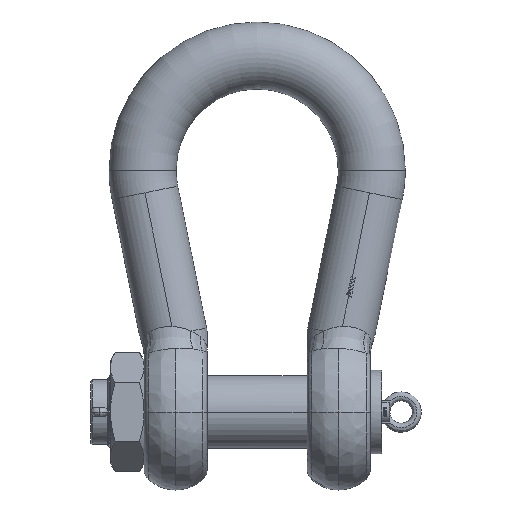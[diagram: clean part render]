
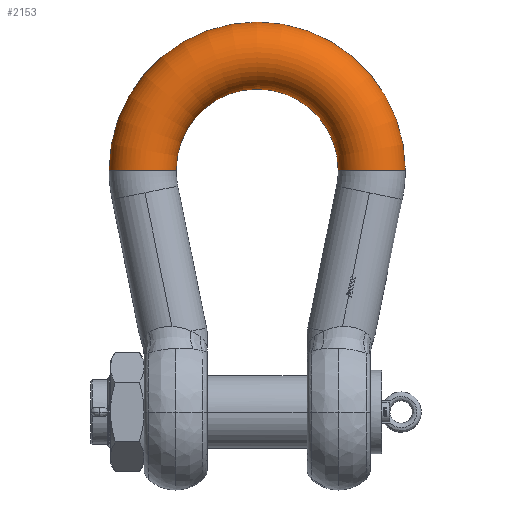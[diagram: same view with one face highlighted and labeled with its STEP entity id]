
A CAD part, front view. The second image highlights one B-rep face of the part: STEP entity #2153.
In plain terms, the highlighted toroidal (fillet/blend) face has major radius 205 mm and minor radius 59.995 mm.
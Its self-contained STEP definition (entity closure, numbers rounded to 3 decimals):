
#2153=ADVANCED_FACE('',(#5113),#5114,.T.);
#5113=FACE_OUTER_BOUND('',#11137,.T.);
#5114=TOROIDAL_SURFACE('',#11138,205.0,59.995);
#11137=EDGE_LOOP('',(#34463,#34464,#34465,#34466));
#11138=AXIS2_PLACEMENT_3D('',#34467,#34468,#34469);
#34463=ORIENTED_EDGE('',*,*,#45775,.T.);
#34464=ORIENTED_EDGE('',*,*,#45776,.F.);
#34465=ORIENTED_EDGE('',*,*,#45777,.T.);
#34466=ORIENTED_EDGE('',*,*,#45612,.F.);
#34467=CARTESIAN_POINT('',(0.0,0.0,433.0));
#34468=DIRECTION('',(0.0,-1.0,0.0));
#34469=DIRECTION('',(1.0,0.0,0.0));
#45612=EDGE_CURVE('',#52814,#52813,#52816,.F.);
#45775=EDGE_CURVE('',#52814,#53037,#53038,.F.);
#45776=EDGE_CURVE('',#53039,#53037,#53040,.T.);
#45777=EDGE_CURVE('',#53039,#52813,#53041,.T.);
#52813=VERTEX_POINT('',#67299);
#52814=VERTEX_POINT('',#67300);
#52816=CIRCLE('',#67302,59.995);
#53037=VERTEX_POINT('',#67915);
#53038=CIRCLE('',#67916,145.005);
#53039=VERTEX_POINT('',#67917);
#53040=B_SPLINE_CURVE_WITH_KNOTS('',5,(#67918,#67919,#67920,#67921,#67922,#67923,#67924,#67925,#67926,#67927,#67928,#67929,#67930,#67931,#67932,#67933,#67934,#67935,#67936,#67937,#67938,#67939,#67940,#67941),.UNSPECIFIED.,.F.,.F.,(6,3,3,3,3,3,3,6),(0.,40.247,80.494,120.742,160.989,201.236,241.483,266.548),.UNSPECIFIED.);
#53041=CIRCLE('',#67942,264.995);
#67299=CARTESIAN_POINT('',(-264.995,0.0,433.0));
#67300=CARTESIAN_POINT('',(-145.005,0.,433.0));
#67302=AXIS2_PLACEMENT_3D('',#98185,#98186,#98187);
#67915=CARTESIAN_POINT('',(145.005,0.,433.0));
#67916=AXIS2_PLACEMENT_3D('',#98204,#98205,#98206);
#67917=CARTESIAN_POINT('',(264.995,0.0,433.0));
#67918=CARTESIAN_POINT('',(264.995,0.,433.0));
#67919=CARTESIAN_POINT('',(264.995,-5.692,433.0));
#67920=CARTESIAN_POINT('',(264.32,-11.384,433.0));
#67921=CARTESIAN_POINT('',(262.97,-16.969,433.0));
#67922=CARTESIAN_POINT('',(258.971,-27.712,433.0));
#67923=CARTESIAN_POINT('',(252.57,-37.222,433.0));
#67924=CARTESIAN_POINT('',(248.818,-41.574,433.0));
#67925=CARTESIAN_POINT('',(240.354,-49.305,433.0));
#67926=CARTESIAN_POINT('',(230.316,-54.841,433.0));
#67927=CARTESIAN_POINT('',(224.99,-56.999,433.0));
#67928=CARTESIAN_POINT('',(213.929,-60.009,433.0));
#67929=CARTESIAN_POINT('',(202.471,-60.349,433.0));
#67930=CARTESIAN_POINT('',(196.748,-59.836,433.0));
#67931=CARTESIAN_POINT('',(185.533,-57.462,433.0));
#67932=CARTESIAN_POINT('',(175.184,-52.531,433.0));
#67933=CARTESIAN_POINT('',(170.327,-49.46,433.0));
#67934=CARTESIAN_POINT('',(161.435,-42.225,433.0));
#67935=CARTESIAN_POINT('',(154.482,-33.111,433.0));
#67936=CARTESIAN_POINT('',(151.564,-28.161,433.0));
#67937=CARTESIAN_POINT('',(147.827,-19.644,433.0));
#67938=CARTESIAN_POINT('',(145.79,-10.609,433.0));
#67939=CARTESIAN_POINT('',(145.267,-7.09,433.0));
#67940=CARTESIAN_POINT('',(145.005,-3.545,433.0));
#67941=CARTESIAN_POINT('',(145.005,0.,433.0));
#67942=AXIS2_PLACEMENT_3D('',#98207,#98208,#98209);
#98185=CARTESIAN_POINT('',(-205.0,0.0,433.0));
#98186=DIRECTION('',(0.,0.0,1.0));
#98187=DIRECTION('',(-1.0,0.0,0.));
#98204=CARTESIAN_POINT('',(0.0,0.,433.0));
#98205=DIRECTION('',(0.0,-1.0,0.0));
#98206=DIRECTION('',(-1.0,0.0,0.0));
#98207=CARTESIAN_POINT('',(0.0,0.,433.0));
#98208=DIRECTION('',(0.0,-1.0,0.0));
#98209=DIRECTION('',(-1.0,0.0,0.0));
